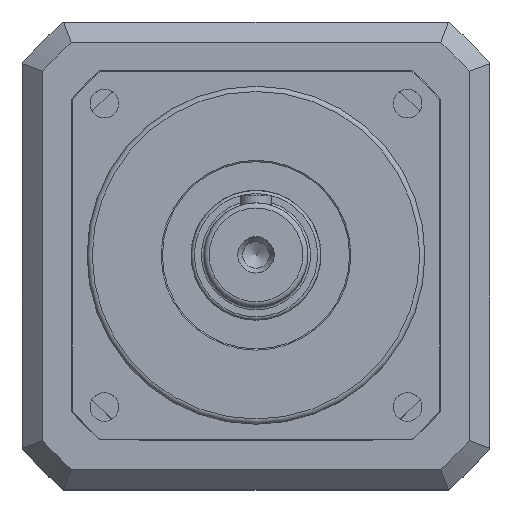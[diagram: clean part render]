
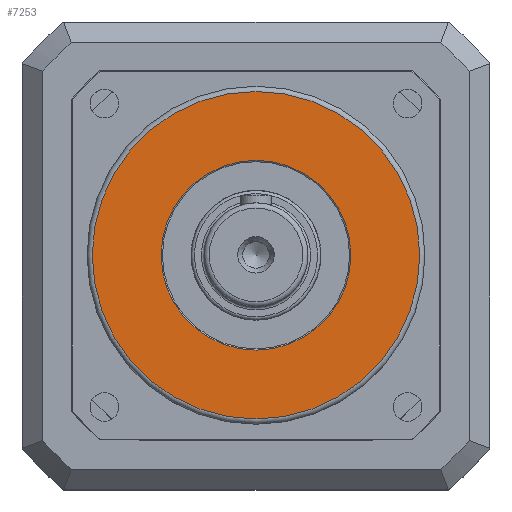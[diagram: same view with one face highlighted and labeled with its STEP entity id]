
A CAD part, top view. The second image highlights one B-rep face of the part: STEP entity #7253.
In plain terms, the highlighted planar face has unit normal (0, 0, 1).
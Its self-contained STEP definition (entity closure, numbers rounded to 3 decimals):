
#4232=CARTESIAN_POINT('',(36.5,0.0,15.0));
#4233=VERTEX_POINT('',#4232);
#4234=CARTESIAN_POINT('',(0.0,0.0,15.0));
#4235=DIRECTION('',(0.0,0.0,-1.0));
#4236=DIRECTION('',(1.0,0.0,0.0));
#4237=AXIS2_PLACEMENT_3D('',#4234,#4235,#4236);
#4238=CIRCLE('',#4237,36.5);
#4239=EDGE_CURVE('',#4233,#4233,#4238,.T.);
#4260=CARTESIAN_POINT('',(63.,0.0,15.0));
#4261=VERTEX_POINT('',#4260);
#4262=CARTESIAN_POINT('',(0.0,0.0,15.0));
#4263=DIRECTION('',(0.0,0.0,1.0));
#4264=DIRECTION('',(1.0,0.0,0.0));
#4265=AXIS2_PLACEMENT_3D('',#4262,#4263,#4264);
#4266=CIRCLE('',#4265,63.);
#4267=EDGE_CURVE('',#4261,#4261,#4266,.T.);
#7242=CARTESIAN_POINT('',(0.0,0.0,15.0));
#7243=DIRECTION('',(0.0,0.0,1.0));
#7244=DIRECTION('',(1.0,0.0,0.0));
#7245=AXIS2_PLACEMENT_3D('',#7242,#7243,#7244);
#7246=PLANE('',#7245);
#7247=ORIENTED_EDGE('',*,*,#4267,.T.);
#7248=EDGE_LOOP('',(#7247));
#7249=FACE_OUTER_BOUND('',#7248,.T.);
#7250=ORIENTED_EDGE('',*,*,#4239,.T.);
#7251=EDGE_LOOP('',(#7250));
#7252=FACE_BOUND('',#7251,.T.);
#7253=ADVANCED_FACE('',(#7249,#7252),#7246,.T.);
